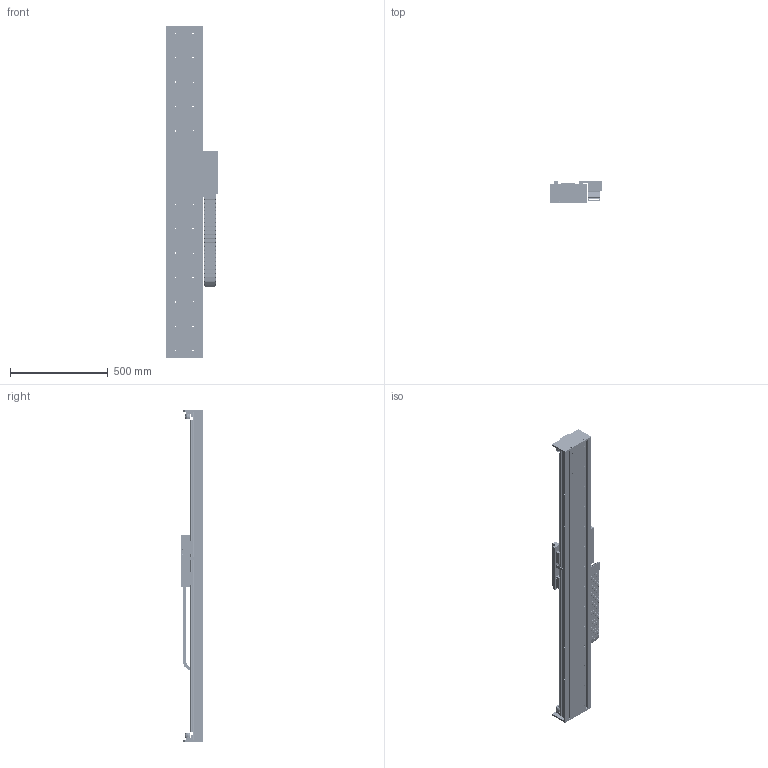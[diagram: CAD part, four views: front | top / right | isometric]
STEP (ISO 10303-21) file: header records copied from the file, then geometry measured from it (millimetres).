
FILE_DESCRIPTION (( 'STEP AP203' ), '1' );
FILE_NAME ('STF50200J-xC1B-Axx.STEP', '2007-10-29T14:01:17', ( 'Yaskawa' ), ( 'Yaskawa' ), 'SwSTEP 2.0', 'SolidWorks 2007', '' );
FILE_SCHEMA (( 'CONFIG_CONTROL_DESIGN' ));
Products named in the file (56): STF50200 Base_STF50BM-009; SSR20 Rail 820_1600; Large Bumper; STF50-0200-R1 Carriage; STF50-004 Flag; STF50-002A-R1 F50-200 Carriage Horn; RGH22B; STCM-007 Lower E-Chain Bracket; STCM-003 Cable Assembly Bottom; STCM-004 Cable Assembly Side; STF50200J; 07.50.038.0_20; 07.50.038.0_23; 07.50.038.0_24; 07.50.038.0_25; 07.50.038.0_35; 07.50.038.0_34; 07.50.038.0_41; 07.50.038.0_42; 07.50.038.0_47; 07.50.038.0_32; 07.50.038.0_31; STF50200J-xC1B-Axx; SGLFM-50675AC; SGLFM-50945AC; STF50 Large End Stop; STF50-007 End Stop; STF50-001A F50-200 Carriage; SGLFW-50A200AP; SSR20W Block; STF50-003 Renishaw Encoder Bracket; STF50-005-R2 Cable Router; STCM-R1; STCM-001-R2 Cable Bracket; STCM-002-R2 Cable Assembly Front; STCM-005-R1 Cable Assembly Cover; STCM-006-R1 Upper E-chain Bracket; Serial Converter; STF50-006 Endplate; 07.50.038.0_27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
Assembly tree (86 placements, depth 4):
  STF50200J-xC1B-Axx
    STF50200 Base_STF50BM-009
    STF50 Large End Stop  x4
      STF50-007 End Stop
      Large Bumper
    SSR20 Rail 820_1600  x2
    SGLFM-50945AC
    STF50200J
      07.50.038.0_42
      07.50.038.0_44
      07.50.038.0_47
      07.50.038.0_32  x13
      07.50.038.0_31  x11
      07.50.038.0_20
      07.50.038.0_29
      07.50.038.0_46
      07.50.038.0_27
      07.50.038.0_30
      07.50.038.0_37
      07.50.038.0_26
      07.50.038.0_40
      07.50.038.0_24
      07.50.038.0_34
      07.50.038.0_21
      07.50.038.0_45
      07.50.038.0_25
      07.50.038.0_38
      07.50.038.0_43
      07.50.038.0_36
      07.50.038.0_28
      07.50.038.0_33
      07.50.038.0_23
      07.50.038.0_35
      07.50.038.0_22
      07.50.038.0_39
      07.50.038.0_41
    STF50-0200-R1 Carriage
      STCM-R1
        STCM-001-R2 Cable Bracket
        STCM-003 Cable Assembly Bottom
        STCM-005-R1 Cable Assembly Cover
        STCM-002-R2 Cable Assembly Front
        STCM-006-R1 Upper E-chain Bracket
        Serial Converter
        STCM-004 Cable Assembly Side
      STF50-005-R2 Cable Router
      STF50-004 Flag
      SSR20W Block  x4
      STF50-002A-R1 F50-200 Carriage Horn  x2
      STF50-001A F50-200 Carriage
      RGH22B
      STF50-003 Renishaw Encoder Bracket
      SGLFW-50A200AP
    STF50-006 Endplate  x2
    SGLFM-50675AC
    STCM-007 Lower E-Chain Bracket
Bounding box: 269.74 x 115 x 1699.05 mm (x, y, z)
Volume: 12637102.1 mm3; surface area: 2820822.4 mm2
Topology: 133 solids, 133 shells, 6440 faces, 16989 edges, 10880 vertices
Faces by surface type: plane 3271, cylinder 2689, cone 468, bspline 8, torus 4
Entity records: 140850 total; most frequent: DIRECTION 23866, CARTESIAN_POINT 23317, ORIENTED_EDGE 22200, EDGE_CURVE 11100, AXIS2_PLACEMENT_3D 8353, VERTEX_POINT 7278, VECTOR 7160, LINE 7160
